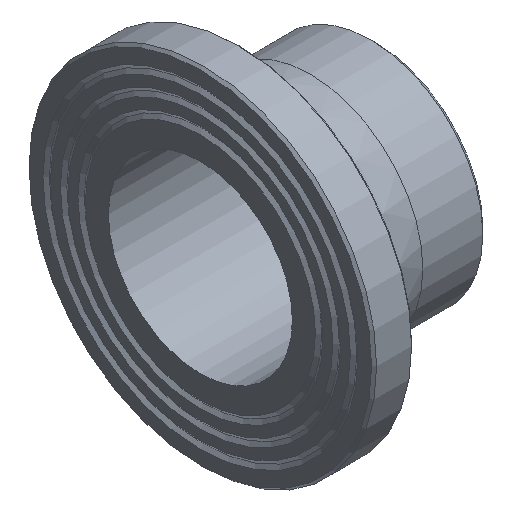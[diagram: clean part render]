
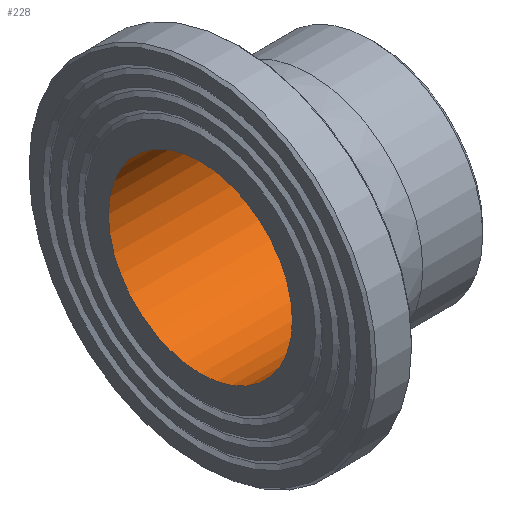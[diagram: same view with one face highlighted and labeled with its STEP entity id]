
A CAD part, isometric view. The second image highlights one B-rep face of the part: STEP entity #228.
In plain terms, the highlighted cylindrical face has radius 36.8 mm (diameter 73.6 mm), a full revolution.
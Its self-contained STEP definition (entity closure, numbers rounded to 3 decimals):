
#33=CYLINDRICAL_SURFACE('',#274,36.8);
#50=ORIENTED_EDGE('',*,*,#79,.F.);
#51=ORIENTED_EDGE('',*,*,#76,.T.);
#76=EDGE_CURVE('',#96,#96,#116,.T.);
#79=EDGE_CURVE('',#99,#99,#119,.T.);
#96=VERTEX_POINT('',#383);
#99=VERTEX_POINT('',#390);
#116=CIRCLE('',#257,36.8);
#119=CIRCLE('',#261,36.8);
#150=EDGE_LOOP('',(#50));
#151=EDGE_LOOP('',(#51));
#190=FACE_BOUND('',#150,.T.);
#191=FACE_BOUND('',#151,.T.);
#228=ADVANCED_FACE('',(#190,#191),#33,.F.);
#257=AXIS2_PLACEMENT_3D('',#382,#303,#304);
#261=AXIS2_PLACEMENT_3D('',#389,#311,#312);
#274=AXIS2_PLACEMENT_3D('',#410,#337,#338);
#303=DIRECTION('',(-1.,0.,0.));
#304=DIRECTION('',(0.,0.,1.));
#311=DIRECTION('',(-1.,0.,0.));
#312=DIRECTION('',(0.,0.,1.));
#337=DIRECTION('',(-1.,0.,0.));
#338=DIRECTION('',(0.,0.,1.));
#382=CARTESIAN_POINT('',(0.,0.,0.));
#383=CARTESIAN_POINT('',(0.,0.,36.8));
#389=CARTESIAN_POINT('',(70.,0.,0.));
#390=CARTESIAN_POINT('',(70.,0.,36.8));
#410=CARTESIAN_POINT('',(60.,0.,0.));
